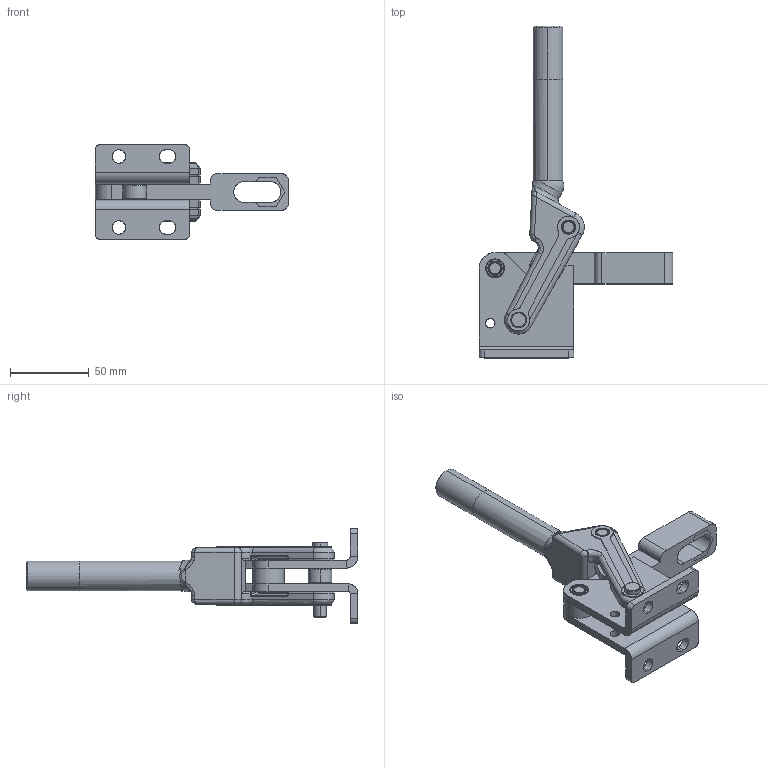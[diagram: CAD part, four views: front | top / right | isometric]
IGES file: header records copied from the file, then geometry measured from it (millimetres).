
Start section: SolidWorks IGES file using analytic representation for surfaces
Global section: file name: D:\GH Files\GH-SW-FILES\GH7\70533-LX11\70533-LX11-ver2\70533.IGS; native system: SolidWorks 2006 by SolidWorks Corporation; preprocessor: SolidWorks 2006 by SolidWorks Corporation; author: Administrator; date: 060705.162434; units: millimetre
Bounding box: 123 x 211.06 x 60.1 mm (x, y, z)
Surface area: 64857.5 mm2 (no closed solid volume)
Topology: 0 solids, 0 shells, 1931 faces, 13357 edges, 13341 vertices
Faces by surface type: bspline 1384, revolution 547
